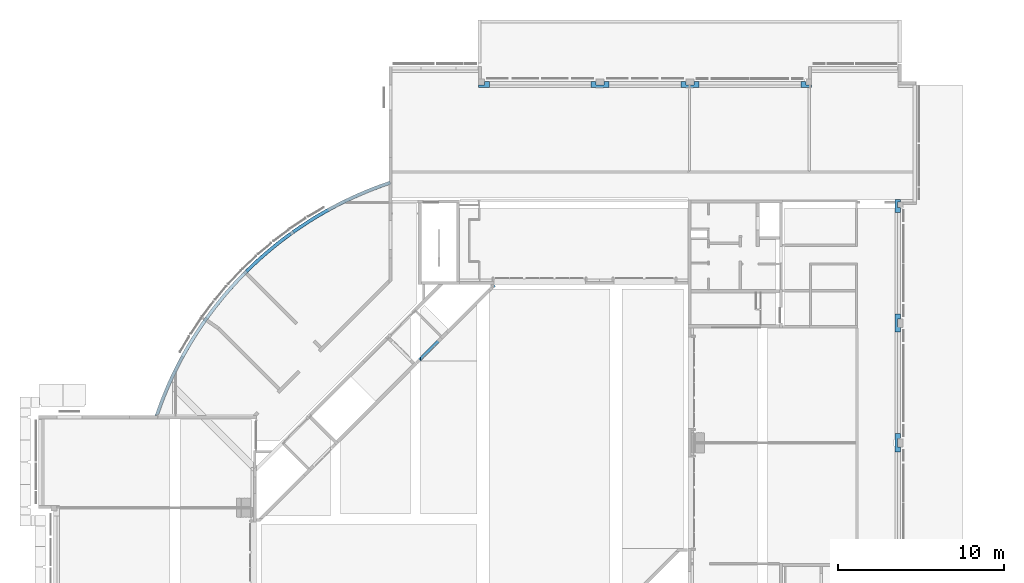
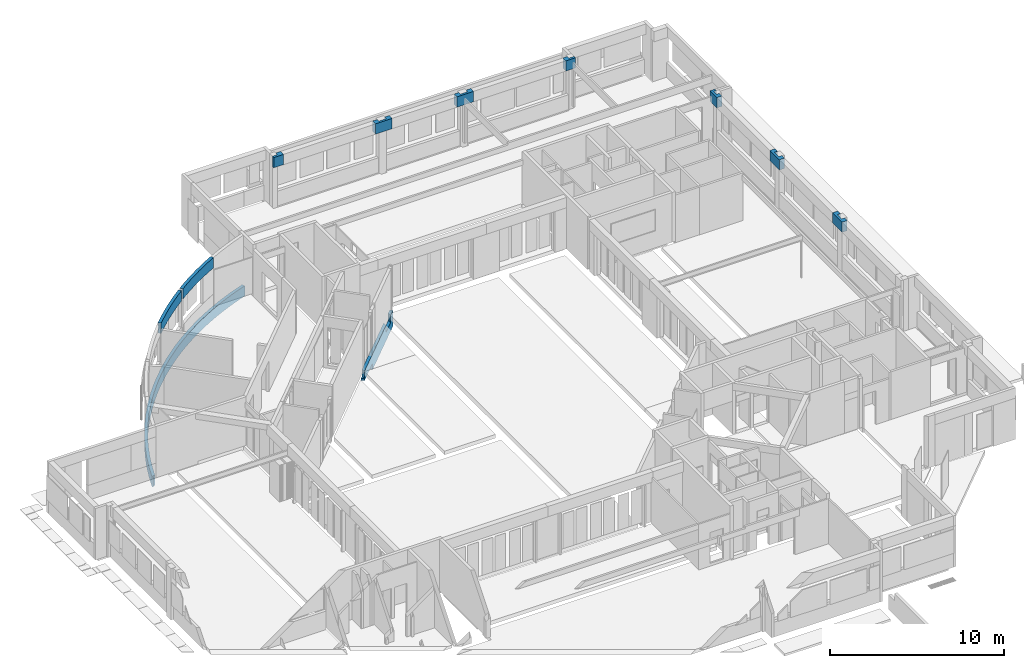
# One storey, part 25 of 30: 11 beams.
"""IFC4X3_ADD2 building model written with IfcOpenShell, lengths in millimetres."""

from ifc_helpers import new_model, si_unit, direction, frame, origin_with_axes, place, context, subcontext, project, spatial, polygons, source, transform, mapped, material, type_object, type_shapes, element, save


model = new_model("IFC4X3_ADD2")

# Units and contexts
model_context = context("Model", 3, precision=1e-05, world=origin_with_axes(), true_north=direction((0.0, 1.0)))
body_context = subcontext(model_context, "Body", "Model", "MODEL_VIEW")
ifc_project = project(units=[si_unit("LENGTHUNIT", "METRE", prefix="MILLI"), si_unit("AREAUNIT", "SQUARE_METRE"), si_unit("VOLUMEUNIT", "CUBIC_METRE"), si_unit("PLANEANGLEUNIT", "RADIAN"), si_unit("TIMEUNIT", "SECOND"), si_unit("MASSUNIT", "GRAM")], contexts=[model_context])

# Site, building, storey
site_placement = place(None, origin_with_axes())
site = spatial("IfcSite", under=ifc_project, at=site_placement, Name="Site", CompositionType="ELEMENT")
building_placement = place(site_placement, origin_with_axes())
building = spatial("IfcBuilding", under=site, at=building_placement, Name="IFC Building Story")
storey_placement = place(building_placement, origin_with_axes())
storey = spatial("IfcBuildingStorey", under=building, at=storey_placement, Name="000", Elevation=0.0)

# Beams
ifc_material = material(Name="BB_Beton_Bestaand")
beam_type_1 = type_object("IfcBeamType", Name="BB_XX_Betonbalk_ rechthoekig_ center-center_SFB_340 x 720 mm3", PredefinedType="NOTDEFINED")
shared_shape_1 = source(origin_with_axes(), body_context, "Body", "Tessellation", [
    polygons([(640.000000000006, 0.0, 720.0), (640.000000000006, 0.0, 0.0), (640.000000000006, 340.000000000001, 0.0), (640.000000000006, 340.000000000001, 720.0), (4.33146851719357e-12, 0.0, 0.0), (4.33146851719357e-12, 0.0, 720.0), (4.33146851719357e-12, 150.000000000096, 720.0), (4.33146851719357e-12, 150.000000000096, 0.0), (339.999999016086, 150.000000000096, 0.0), (339.999999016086, 340.000000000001, 0.0), (339.999999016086, 340.000000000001, 720.0), (339.999999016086, 150.000000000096, 720.0)], [[[1, 2, 3, 4]], [[5, 6, 7, 8]], [[2, 1, 6, 5]], [[9, 10, 3]], [[9, 3, 2]], [[2, 5, 8]], [[2, 8, 9]], [[4, 3, 10, 11]], [[12, 7, 6]], [[12, 6, 1]], [[1, 4, 11]], [[1, 11, 12]], [[12, 9, 8, 7]], [[9, 12, 11, 10]]]),
])
type_shapes(beam_type_1, [shared_shape_1])
beam_1_placement = place(storey_placement, frame((-25260.0, 50455.0, 2680.0), z_axis=(0.0, 0.0, 1.0), x_axis=(1.0, 0.0, 0.0)))
element("IfcBeam", 1, at=beam_1_placement, inside=storey, type_object=beam_type_1, material=ifc_material, Name="BB_XX_Betonbalk, rechthoekig, center-center_SFB:340 x 720 mm", ObjectType="BB_XX_Betonbalk, rechthoekig, center-center_SFB:340 x 720 mm", PredefinedType="BEAM", context=body_context, shape_type="MappedRepresentation", body=[
    mapped(shared_shape_1, transform((0.0, 0.0, 0.0))),
])
beam_type_2 = type_object("IfcBeamType", Name="BB_XX_Betonbalk_ rechthoekig_ center-center_SFB_340 x 720 mm11", PredefinedType="NOTDEFINED")
shared_shape_2 = source(origin_with_axes(), body_context, "Body", "Tessellation", [
    polygons([(640.000000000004, -8.66293703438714e-12, 720.000000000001), (640.000000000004, -8.66293703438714e-12, 1.08286712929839e-12), (640.000000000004, 149.999999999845, 1.08286712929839e-12), (640.000000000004, 149.999999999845, 720.000000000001), (0.0, -8.66293703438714e-12, 720.0), (0.0, 339.999999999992, 720.0), (0.0, 339.999999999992, 0.0), (0.0, -8.66293703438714e-12, 0.0), (300.000000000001, 339.999999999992, 0.0), (300.000000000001, 149.999999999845, 0.0), (300.0, 339.999999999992, 720.000000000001), (300.0, 149.999999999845, 720.000000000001)], [[[1, 2, 3, 4]], [[5, 6, 7, 8]], [[2, 1, 5, 8]], [[10, 3, 2]], [[10, 2, 8]], [[8, 7, 9]], [[8, 9, 10]], [[7, 6, 11, 9]], [[12, 11, 6]], [[12, 6, 5]], [[5, 1, 4]], [[5, 4, 12]], [[10, 12, 4, 3]], [[12, 10, 9, 11]]]),
])
type_shapes(beam_type_2, [shared_shape_2])
beam_2_placement = place(storey_placement, frame((-5910.0, 50455.0, 2680.0), z_axis=(0.0, 0.0, 1.0), x_axis=(1.0, 0.0, 0.0)))
element("IfcBeam", 2, at=beam_2_placement, inside=storey, type_object=beam_type_2, material=ifc_material, Name="BB_XX_Betonbalk, rechthoekig, center-center_SFB:340 x 720 mm", ObjectType="BB_XX_Betonbalk, rechthoekig, center-center_SFB:340 x 720 mm", PredefinedType="BEAM", context=body_context, shape_type="MappedRepresentation", body=[
    mapped(shared_shape_2, transform((0.0, 0.0, 0.0))),
])
beam_type_3 = type_object("IfcBeamType", Name="BB_XX_Betonbalk_ rechthoekig_ center-center_SFB_340 x 720 mm15", PredefinedType="NOTDEFINED")
shared_shape_3 = source(origin_with_axes(), body_context, "Body", "Tessellation", [
    polygons([(0.0, 0.0, 720.0), (0.0, 0.0, 0.0), (340.000000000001, 0.0, 0.0), (340.000000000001, 0.0, 720.0), (1.28590471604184e-12, 790.000000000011, 720.0), (340.000000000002, 790.000000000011, 720.0), (340.000000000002, 790.000000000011, 0.0), (1.28590471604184e-12, 790.000000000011, 0.0), (1.08286712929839e-12, 664.999999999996, 0.0), (0.0, 564.999999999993, 0.0), (340.000000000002, 640.00000000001, 0.0), (150.000000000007, 640.00000000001, 0.0), (150.000000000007, 300.000000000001, 0.0), (340.000000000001, 300.000000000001, 0.0), (340.000000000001, 300.000000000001, 720.0), (150.000000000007, 300.000000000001, 720.0), (150.000000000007, 640.00000000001, 720.0), (340.000000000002, 640.00000000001, 720.0)], [[[1, 2, 3, 4]], [[5, 6, 7, 8]], [[10, 2, 1]], [[10, 1, 5]], [[5, 9, 10]], [[5, 8, 9]], [[9, 8, 7]], [[9, 7, 11]], [[12, 10, 9]], [[9, 11, 12]], [[13, 14, 3]], [[13, 3, 2]], [[2, 10, 13]], [[10, 12, 13]], [[4, 3, 14, 15]], [[17, 18, 6]], [[17, 6, 5]], [[5, 1, 16]], [[5, 16, 17]], [[1, 4, 15]], [[1, 15, 16]], [[17, 12, 11, 18]], [[12, 17, 16, 13]], [[13, 16, 15, 14]], [[7, 6, 18, 11]]]),
])
type_shapes(beam_type_3, [shared_shape_3])
beam_3_placement = place(storey_placement, frame((-245.0, 42935.0, 2680.0), z_axis=(0.0, 0.0, 1.0), x_axis=(1.0, 0.0, 0.0)))
element("IfcBeam", 3, at=beam_3_placement, inside=storey, type_object=beam_type_3, material=ifc_material, Name="BB_XX_Betonbalk, rechthoekig, center-center_SFB:340 x 720 mm", ObjectType="BB_XX_Betonbalk, rechthoekig, center-center_SFB:340 x 720 mm", PredefinedType="BEAM", context=body_context, shape_type="MappedRepresentation", body=[
    mapped(shared_shape_3, transform((0.0, 0.0, 0.0))),
])
beam_type_4 = type_object("IfcBeamType", Name="BB_XX_Betonbalk_ rechthoekig_ center-center_SFB_200 x 720 mm1", PredefinedType="NOTDEFINED")
shared_shape_4 = source(origin_with_axes(), body_context, "Body", "Tessellation", [
    polygons([(142.597985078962, 1.59527223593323, 720.000000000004), (1.59527223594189, 143.434036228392, 720.000000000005), (1.59527223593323, 143.434036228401, 5.41433564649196e-12), (142.597985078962, 1.59527223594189, 4.33146851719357e-12), (2777.39848998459, 2240.48854089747, 0.0), (2660.17752042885, 2402.53558436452, 1.62430069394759e-12), (2660.17752042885, 2402.53558436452, 720.000000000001), (2777.3984899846, 2240.48854089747, 720.0), (2259.24342575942, 2105.63969209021, 2.16573425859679e-12), (2259.24342575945, 2105.63969209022, 720.000000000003), (1865.03358315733, 1799.8719385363, 2.70716782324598e-12), (1865.03358315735, 1799.87193853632, 720.000000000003), (1477.74427050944, 1485.38456609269, 3.24860138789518e-12), (1477.74427050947, 1485.38456609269, 720.000000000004), (1097.56831995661, 1162.33415866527, 3.79003495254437e-12), (1097.56831995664, 1162.33415866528, 720.000000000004), (724.695021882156, 830.881563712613, 4.33146851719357e-12), (724.695021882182, 830.88156371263, 720.000000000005), (359.310030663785, 491.19181215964, 4.87290208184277e-12), (359.310030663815, 491.191812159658, 720.000000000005), (2380.05086013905, 1946.2484633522, 1.08286712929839e-12), (1989.36733209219, 1643.21588574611, 1.62430069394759e-12), (1605.54242797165, 1331.54168861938, 2.16573425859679e-12), (1228.7672549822, 1011.38105519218, 2.70716782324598e-12), (859.229410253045, 682.893394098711, 3.24860138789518e-12), (497.112887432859, 346.242260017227, 3.79003495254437e-12), (2380.05086013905, 1946.2484633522, 720.000000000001), (1989.36733209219, 1643.21588574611, 720.000000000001), (1605.54242797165, 1331.54168861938, 720.000000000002), (1228.7672549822, 1011.38105519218, 720.000000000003), (859.22941025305, 682.893394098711, 720.000000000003), (497.112887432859, 346.242260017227, 720.000000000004)], [[[1, 2, 3, 4]], [[5, 6, 7, 8]], [[7, 6, 9, 10]], [[10, 9, 11, 12]], [[12, 11, 13, 14]], [[13, 15, 16, 14]], [[16, 15, 17, 18]], [[18, 17, 19, 20]], [[20, 19, 3, 2]], [[9, 6, 5]], [[9, 5, 21]], [[21, 22, 11]], [[21, 11, 9]], [[22, 23, 13]], [[22, 13, 11]], [[23, 24, 15]], [[23, 15, 13]], [[24, 25, 17]], [[24, 17, 15]], [[25, 26, 19]], [[25, 19, 17]], [[26, 4, 3]], [[26, 3, 19]], [[21, 5, 8, 27]], [[22, 21, 27, 28]], [[23, 22, 28, 29]], [[29, 30, 24, 23]], [[25, 24, 30, 31]], [[26, 25, 31, 32]], [[4, 26, 32, 1]], [[27, 8, 7]], [[27, 7, 10]], [[10, 12, 28]], [[10, 28, 27]], [[12, 14, 29]], [[12, 29, 28]], [[14, 16, 30]], [[14, 30, 29]], [[16, 18, 31]], [[16, 31, 30]], [[18, 20, 32]], [[18, 32, 31]], [[20, 2, 1]], [[20, 1, 32]]]),
])
type_shapes(beam_type_4, [shared_shape_4])
beam_4_placement = place(storey_placement, frame((-39281.262081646, 39331.1008729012, 2680.0), z_axis=(0.0, 0.0, 1.0), x_axis=(1.0, 0.0, 0.0)))
element("IfcBeam", 4, at=beam_4_placement, inside=storey, type_object=beam_type_4, material=ifc_material, Name="BB_XX_Betonbalk, rechthoekig, center-center_SFB:200 x 720 mm", ObjectType="BB_XX_Betonbalk, rechthoekig, center-center_SFB:200 x 720 mm", PredefinedType="BEAM", context=body_context, shape_type="MappedRepresentation", body=[
    mapped(shared_shape_4, transform((0.0, 0.0, 0.0))),
])
beam_type_5 = type_object("IfcBeamType", Name="BB_XX_Betonbalk_ rechthoekig_ center-center_SFB_200 x 720 mm3", PredefinedType="NOTDEFINED")
shared_shape_5 = source(origin_with_axes(), body_context, "Body", "Tessellation", [
    polygons([(14173.7584310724, 13938.0728633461, 720.000000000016), (14173.7584310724, 13938.0728633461, 1.59722901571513e-11), (14110.3369802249, 14127.7507997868, 1.48894230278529e-11), (14110.3369802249, 14127.7507997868, 720.000000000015), (1.59527223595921, 30.1020308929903, 1.48894230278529e-11), (91.3881264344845, 0.0, 1.54308565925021e-11), (91.3881264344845, 0.0, 20.0000000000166), (91.3881264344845, 0.0, 720.000000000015), (1.59527223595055, 30.1020308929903, 720.000000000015), (797.220168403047, 1566.40785327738, 720.000000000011), (910.899098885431, 1829.99881005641, 1.08286712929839e-11), (1006.30505520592, 2044.24929013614, 720.00000000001), (1226.57918607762, 2517.03702249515, 720.000000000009), (1418.44698908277, 2906.67320390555, 8.39222025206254e-12), (1457.92051000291, 2984.50908421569, 720.000000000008), (1194.43718385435, 2449.82836622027, 9.47508738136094e-12), (1652.88737702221, 3358.25403633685, 7.44471151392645e-12), (1700.20084376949, 3446.4064544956, 720.000000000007), (238.231573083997, 105.232225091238, 720.000000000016), (238.23157308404, 105.232225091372, 1.57015733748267e-11), (392.845084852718, 541.596269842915, 1.4483347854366e-11), (599.440376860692, 1083.7774782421, 720.000000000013), (413.075267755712, 596.625584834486, 720.000000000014), (556.54343647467, 974.640651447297, 1.32651223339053e-11), (729.253528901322, 1404.1713730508, 1.19115384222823e-11), (1953.28594299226, 3902.47320138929, 720.000000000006), (1897.63473028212, 3804.33275850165, 6.49720277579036e-12), (3690.43465536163, 6502.52294920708, 720.000000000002), (3375.66973466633, 6086.62390166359, 720.000000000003), (3574.96663967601, 6352.30792031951, 2.57180943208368e-12), (4348.89072112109, 7311.5228213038, 720.000000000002), (4014.90157851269, 6910.89801441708, 720.000000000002), (4210.06964258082, 7147.32785450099, 1.89501747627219e-12), (3887.95391130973, 6753.46403949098, 2.16573425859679e-12), (4692.21702403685, 7704.17538818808, 720.000000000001), (4541.14398988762, 7533.69169214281, 1.62430069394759e-12), (2491.30360401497, 4796.10739058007, 720.000000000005), (2217.03557649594, 4352.45662361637, 720.000000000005), (2417.52875991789, 4679.04608143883, 4.87290208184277e-12), (2977.03269806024, 5528.96857520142, 3.51931817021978e-12), (3070.7812236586, 5663.43131671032, 720.000000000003), (2775.93805716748, 5233.17968051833, 720.000000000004), (2692.40130517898, 5107.21947204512, 4.33146851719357e-12), (3271.27285834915, 5944.07101507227, 2.97788460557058e-12), (2152.55999720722, 4244.67416647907, 5.68505242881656e-12), (5044.69025449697, 8088.63815069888, 720.000000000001), (4881.00238623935, 7912.35183357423, 1.35358391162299e-12), (945.784067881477, 1909.04897945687, 1.06933129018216e-11), (980.975294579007, 1987.95865347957, 1.05579545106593e-11), (5229.46563328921, 8283.10862171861, 1.35358391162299e-12), (5406.11511153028, 8464.698082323, 720.000000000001), (6937.25353509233, 9880.81433195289, 720.000000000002), (7094.27059477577, 10011.6516653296, 1.89501747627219e-12), (7340.33735024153, 10211.8316527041, 720.000000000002), (7751.10080260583, 10533.2697043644, 720.000000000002), (7893.66367134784, 10641.241620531, 2.70716782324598e-12), (8169.31629324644, 10844.9503815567, 720.000000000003), (7490.35262558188, 10331.0359754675, 2.30109264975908e-12), (8303.99107826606, 10942.1050357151, 3.24860138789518e-12), (8594.75209412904, 11146.7009853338, 720.000000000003), (5776.29133417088, 8832.14681244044, 720.000000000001), (5586.34999580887, 8645.76656652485, 1.35358391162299e-12), (6542.07270089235, 9540.40115523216, 720.000000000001), (6155.01381241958, 9190.78074178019, 720.000000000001), (6324.62502547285, 9346.02541717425, 1.48894230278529e-12), (5951.46729855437, 9000.1344480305, 1.35358391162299e-12), (6705.6264211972, 9683.2570943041, 1.62430069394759e-12), (9027.17247652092, 11438.35431887, 720.000000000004), (8721.11849309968, 11233.4675818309, 3.79003495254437e-12), (12229.1033851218, 13184.356351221, 720.000000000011), (11754.6994416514, 12967.5845789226, 720.000000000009), (11812.5136154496, 12994.7271650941, 9.74580416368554e-12), (13192.5581513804, 13584.107061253, 720.000000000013), (12708.4781602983, 13389.9018089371, 720.000000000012), (12743.8860146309, 13404.5571417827, 1.21822552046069e-11), (12275.8469302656, 13204.989183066, 1.09640296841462e-11), (13681.0751319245, 13766.8644995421, 720.000000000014), (13216.3840854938, 13593.3258091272, 1.35358391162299e-11), (9912.00485323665, 11990.7284512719, 720.000000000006), (9466.3378416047, 11719.748780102, 720.000000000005), (9574.89012267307, 11787.0806373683, 5.14361886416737e-12), (10363.9265727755, 12251.143185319, 720.000000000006), (10011.0841697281, 12049.0392359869, 5.95576921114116e-12), (10900.9388908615, 12542.5700129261, 7.85078668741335e-12), (11285.5291913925, 12739.7066032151, 720.000000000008), (10821.8525959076, 12500.8486890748, 720.000000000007), (10453.1781266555, 12300.9132978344, 6.76791955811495e-12), (11354.1303718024, 12773.8819582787, 8.66293703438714e-12), (9144.82597724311, 11515.1756289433, 4.33146851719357e-12), (13693.0919657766, 13771.1956314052, 1.48894230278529e-11), (2263.79289239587, 4810.35543037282, 3.65467656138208e-12), (2848.52045961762, 5694.59114570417, 2.30109264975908e-12), (3474.50390082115, 6550.11663303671, 1.21822552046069e-12), (4140.33596687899, 7375.00861866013, 0.0), (4844.51982651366, 8167.41269485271, 0.0), (5406.86971693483, 8729.32044002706, 0.0), (5969.21960735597, 9291.22818520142, 0.0), (6762.17731769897, 9994.7885576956, 0.0), (7587.59276163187, 10659.971594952, 1.21822552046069e-12), (8443.6103546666, 11285.2819247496, 2.30109264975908e-12), (9328.30571680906, 11869.3138111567, 3.65467656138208e-12), (10239.6899986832, 12410.7543147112, 5.27897725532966e-12), (11175.7143525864, 12908.386243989, 7.30935312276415e-12), (12134.2745384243, 13361.0908919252, 9.61044577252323e-12), (13113.2156541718, 13767.8505507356, 1.21822552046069e-11), (91.3881264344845, 105.232225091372, 1.50247814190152e-11), (362.279700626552, 1026.939967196, 1.20468968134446e-11), (769.809224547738, 2005.56084131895, 9.47508738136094e-12), (1223.26769266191, 2963.76465358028, 7.17399473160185e-12), (1721.63570255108, 3899.3973031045, 5.27897725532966e-12), (769.809224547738, 2005.56084131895, 720.000000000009), (1223.26769266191, 2963.76465358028, 720.000000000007), (362.279700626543, 1026.939967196, 720.000000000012), (1721.63570255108, 3899.3973031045, 720.000000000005), (3474.50390082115, 6550.11663303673, 720.000000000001), (4140.33596687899, 7375.00861866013, 720.0), (2263.79289239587, 4810.35543037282, 720.000000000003), (2848.52045961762, 5694.59114570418, 720.000000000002), (4844.51982651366, 8167.41269485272, 720.0), (5406.86971693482, 8729.32044002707, 720.0), (5969.21960735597, 9291.22818520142, 720.0), (7587.59276163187, 10659.971594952, 720.000000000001), (8443.61035466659, 11285.2819247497, 720.000000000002), (6762.17731769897, 9994.7885576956, 720.0), (9328.30571680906, 11869.3138111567, 720.000000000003), (12134.2745384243, 13361.0908919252, 720.000000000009), (13113.2156541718, 13767.8505507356, 720.000000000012), (10239.6899986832, 12410.7543147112, 720.000000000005), (11175.7143525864, 12908.386243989, 720.000000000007), (91.3881264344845, 105.232225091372, 720.000000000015)], [[[1, 2, 3, 4]], [[7, 8, 9]], [[7, 9, 5]], [[5, 6, 7]], [[10, 11, 12]], [[13, 14, 15]], [[13, 12, 16]], [[15, 17, 18]], [[19, 20, 21]], [[22, 23, 24]], [[21, 23, 19]], [[22, 25, 10]], [[26, 18, 27]], [[28, 29, 30]], [[31, 32, 33]], [[34, 32, 28]], [[35, 31, 36]], [[37, 38, 39]], [[40, 41, 42]], [[37, 43, 42]], [[29, 41, 44]], [[38, 26, 45]], [[46, 35, 47]], [[24, 23, 21]], [[22, 24, 25]], [[25, 11, 10]], [[12, 11, 48]], [[48, 49, 12]], [[16, 12, 49]], [[13, 16, 14]], [[15, 14, 17]], [[18, 17, 27]], [[27, 45, 26]], [[39, 38, 45]], [[37, 39, 43]], [[40, 42, 43]], [[44, 41, 40]], [[30, 29, 44]], [[30, 34, 28]], [[33, 32, 34]], [[36, 31, 33]], [[35, 36, 47]], [[47, 50, 46]], [[50, 51, 46]], [[52, 53, 54]], [[55, 56, 57]], [[55, 54, 58]], [[57, 59, 60]], [[61, 51, 62]], [[63, 64, 65]], [[66, 64, 61]], [[63, 67, 52]], [[68, 60, 69]], [[70, 71, 72]], [[73, 74, 75]], [[76, 74, 70]], [[77, 73, 78]], [[79, 80, 81]], [[82, 79, 83]], [[84, 85, 86]], [[82, 87, 86]], [[71, 85, 88]], [[89, 80, 68]], [[1, 77, 90]], [[66, 61, 62]], [[64, 66, 65]], [[65, 67, 63]], [[52, 67, 53]], [[53, 58, 54]], [[56, 55, 58]], [[57, 56, 59]], [[60, 59, 69]], [[68, 69, 89]], [[89, 81, 80]], [[83, 79, 81]], [[82, 83, 87]], [[84, 86, 87]], [[88, 85, 84]], [[72, 71, 88]], [[72, 76, 70]], [[75, 74, 76]], [[78, 73, 75]], [[77, 78, 90]], [[90, 2, 1]], [[50, 62, 51]], [[90, 78, 105]], [[90, 105, 3]], [[3, 2, 90]], [[75, 76, 104]], [[75, 104, 105]], [[105, 78, 75]], [[72, 88, 103]], [[72, 103, 104]], [[104, 76, 72]], [[84, 87, 102]], [[84, 102, 103]], [[103, 88, 84]], [[83, 81, 101]], [[83, 101, 102]], [[102, 87, 83]], [[89, 69, 100]], [[89, 100, 101]], [[101, 81, 89]], [[59, 56, 99]], [[59, 99, 100]], [[100, 69, 59]], [[53, 67, 98]], [[98, 99, 58]], [[98, 58, 53]], [[99, 56, 58]], [[65, 66, 97]], [[97, 98, 67]], [[97, 67, 65]], [[66, 62, 96]], [[66, 96, 97]], [[50, 47, 95]], [[95, 96, 62]], [[95, 62, 50]], [[36, 33, 94]], [[94, 95, 47]], [[94, 47, 36]], [[34, 30, 93]], [[93, 94, 33]], [[93, 33, 34]], [[44, 40, 92]], [[92, 93, 30]], [[92, 30, 44]], [[43, 39, 91]], [[91, 92, 40]], [[91, 40, 43]], [[106, 6, 5]], [[106, 5, 107]], [[107, 21, 20]], [[107, 20, 106]], [[107, 24, 21]], [[107, 25, 24]], [[107, 108, 11]], [[107, 11, 25]], [[108, 48, 11]], [[108, 49, 48]], [[108, 109, 16]], [[108, 16, 49]], [[109, 14, 16]], [[109, 110, 17]], [[109, 17, 14]], [[110, 27, 17]], [[110, 45, 27]], [[110, 91, 39]], [[110, 39, 45]], [[108, 111, 112, 109]], [[5, 9, 113, 107]], [[111, 108, 107, 113]], [[109, 112, 114, 110]], [[115, 116, 94, 93]], [[91, 117, 118, 92]], [[92, 118, 115, 93]], [[114, 117, 91, 110]], [[94, 116, 119, 95]], [[120, 121, 97]], [[120, 97, 96]], [[96, 95, 119]], [[96, 119, 120]], [[99, 122, 123, 100]], [[97, 121, 124, 98]], [[122, 99, 98, 124]], [[100, 123, 125, 101]], [[126, 127, 105, 104]], [[102, 128, 129, 103]], [[103, 129, 126, 104]], [[125, 128, 102, 101]], [[105, 127, 4, 3]], [[77, 1, 4]], [[4, 127, 73]], [[4, 73, 77]], [[127, 74, 73]], [[127, 126, 70]], [[127, 70, 74]], [[126, 71, 70]], [[126, 129, 85]], [[126, 85, 71]], [[129, 86, 85]], [[129, 128, 82]], [[129, 82, 86]], [[128, 79, 82]], [[128, 125, 80]], [[128, 80, 79]], [[125, 68, 80]], [[125, 123, 60]], [[125, 60, 68]], [[123, 57, 60]], [[123, 122, 55]], [[123, 55, 57]], [[122, 54, 55]], [[122, 124, 52]], [[122, 52, 54]], [[124, 63, 52]], [[124, 121, 64]], [[124, 64, 63]], [[121, 120, 61]], [[121, 61, 64]], [[120, 51, 61]], [[120, 119, 46]], [[120, 46, 51]], [[119, 35, 46]], [[119, 116, 31]], [[119, 31, 35]], [[116, 32, 31]], [[116, 115, 28]], [[116, 28, 32]], [[115, 29, 28]], [[115, 118, 41]], [[115, 41, 29]], [[23, 22, 113]], [[113, 130, 19]], [[113, 19, 23]], [[113, 9, 130]], [[9, 8, 130]], [[10, 12, 111]], [[111, 113, 22]], [[111, 22, 10]], [[13, 15, 112]], [[112, 111, 12]], [[112, 12, 13]], [[18, 26, 114]], [[114, 112, 15]], [[114, 15, 18]], [[38, 37, 117]], [[117, 114, 26]], [[117, 26, 38]], [[42, 41, 118]], [[118, 117, 37]], [[118, 37, 42]], [[7, 6, 106]], [[106, 130, 8]], [[106, 8, 7]], [[106, 20, 19, 130]]]),
])
type_shapes(beam_type_5, [shared_shape_5])
beam_5_placement = place(storey_placement, frame((-44717.1254626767, 30694.7677749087, -920.0), z_axis=(0.0, 0.0, 1.0), x_axis=(1.0, 0.0, 0.0)))
element("IfcBeam", 5, at=beam_5_placement, inside=storey, type_object=beam_type_5, material=ifc_material, Name="BB_XX_Betonbalk, rechthoekig, center-center_SFB:200 x 720 mm", ObjectType="BB_XX_Betonbalk, rechthoekig, center-center_SFB:200 x 720 mm", PredefinedType="BEAM", context=body_context, shape_type="MappedRepresentation", body=[
    mapped(shared_shape_5, transform((0.0, 0.0, 0.0))),
])
beam_type_6 = type_object("IfcBeamType", Name="BB_XX_Betonbalk_ rechthoekig_ center-center_SFB_200 x 720 mm9", PredefinedType="NOTDEFINED")
shared_shape_6 = source(origin_with_axes(), body_context, "Body", "Tessellation", [
    polygons([(1.59527223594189, 164.686932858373, 720.0), (1.59527223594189, 164.686932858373, 0.0), (117.358436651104, 1.59527223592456, 0.0), (117.358436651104, 1.59527223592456, 720.0), (3207.10114787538, 1837.29341678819, 0.0), (3119.22604096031, 2016.95411250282, 0.0), (3119.22604096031, 2016.95411250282, 720.0), (3207.10114787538, 1837.29341678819, 720.000000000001), (2656.03101821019, 1783.70189572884, 0.0), (2656.03101821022, 1783.70189572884, 720.0), (2198.370648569, 1539.76909393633, 0.0), (2198.37064856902, 1539.76909393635, 720.0), (1746.49116834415, 1285.28695098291, 0.0), (1746.49116834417, 1285.28695098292, 720.0), (1300.63570353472, 1020.39238661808, 0.0), (1300.63570353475, 1020.3923866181, 720.0), (861.044139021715, 745.227922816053, 0.0), (861.044139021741, 745.227922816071, 720.0), (427.952989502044, 459.941607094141, 0.0), (427.95298950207, 459.941607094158, 720.0), (2748.0495309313, 1606.1277047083, 0.0), (2294.48305811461, 1364.37694835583, 0.0), (1846.64576308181, 1112.17121757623, 0.0), (1404.77859700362, 849.646207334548, 0.0), (969.11929892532, 576.943164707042, 0.0), (539.902267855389, 294.208812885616, 0.0), (2748.0495309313, 1606.1277047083, 720.0), (2294.48305811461, 1364.37694835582, 720.0), (1846.64576308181, 1112.17121757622, 720.0), (1404.77859700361, 849.646207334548, 720.0), (969.11929892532, 576.943164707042, 720.0), (539.902267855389, 294.208812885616, 720.0)], [[[1, 2, 3, 4]], [[5, 6, 7, 8]], [[7, 6, 9, 10]], [[10, 9, 11, 12]], [[12, 11, 13, 14]], [[13, 15, 16, 14]], [[16, 15, 17, 18]], [[18, 17, 19, 20]], [[20, 19, 2, 1]], [[9, 6, 5]], [[9, 5, 21]], [[21, 22, 11]], [[21, 11, 9]], [[22, 23, 13]], [[22, 13, 11]], [[23, 24, 15]], [[23, 15, 13]], [[24, 25, 17]], [[24, 17, 15]], [[25, 26, 19]], [[25, 19, 17]], [[26, 3, 2]], [[26, 2, 19]], [[21, 5, 8, 27]], [[22, 21, 27, 28]], [[23, 22, 28, 29]], [[29, 30, 24, 23]], [[25, 24, 30, 31]], [[26, 25, 31, 32]], [[3, 26, 32, 4]], [[27, 8, 7]], [[27, 7, 10]], [[10, 12, 28]], [[10, 28, 27]], [[12, 14, 29]], [[12, 29, 28]], [[14, 16, 30]], [[14, 30, 29]], [[16, 18, 31]], [[16, 31, 30]], [[18, 20, 32]], [[18, 32, 31]], [[20, 1, 4]], [[20, 4, 32]]]),
])
type_shapes(beam_type_6, [shared_shape_6])
beam_6_placement = place(storey_placement, frame((-36459.7104993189, 41685.7282059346, 2680.0), z_axis=(0.0, 0.0, 1.0), x_axis=(1.0, 0.0, 0.0)))
element("IfcBeam", 6, at=beam_6_placement, inside=storey, type_object=beam_type_6, material=ifc_material, Name="BB_XX_Betonbalk, rechthoekig, center-center_SFB:200 x 720 mm", ObjectType="BB_XX_Betonbalk, rechthoekig, center-center_SFB:200 x 720 mm", PredefinedType="BEAM", context=body_context, shape_type="MappedRepresentation", body=[
    mapped(shared_shape_6, transform((0.0, 0.0, 0.0))),
])
beam_type_7 = type_object("IfcBeamType", Name="BB_XX_Betonbalk_ rechthoekig_ center-center_SFB_340 x 720 mm79", PredefinedType="NOTDEFINED")
shared_shape_7 = source(origin_with_axes(), body_context, "Body", "Tessellation", [
    polygons([(1090.0, 0.0, 0.0), (1090.0, 0.0, -720.0), (1090.0, 340.000000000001, -720.0), (1090.0, 340.000000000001, 0.0), (0.0, 0.0, 0.0), (0.0, 340.000000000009, 0.0), (0.0, 340.000000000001, -720.0), (0.0, 0.0, -720.0), (300.000000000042, 340.000000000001, -720.0), (300.000000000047, 149.999999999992, -720.0), (790.000000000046, 149.999999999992, -720.0), (790.000000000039, 340.000000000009, -720.0), (790.000000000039, 340.000000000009, 0.0), (790.000000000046, 150.0, 0.0), (300.000000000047, 149.999999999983, 0.0), (300.000000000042, 340.000000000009, 0.0)], [[[1, 2, 3, 4]], [[5, 6, 7, 8]], [[2, 1, 5, 8]], [[11, 12, 3]], [[11, 3, 2]], [[2, 8, 10]], [[2, 10, 11]], [[8, 7, 9]], [[8, 9, 10]], [[4, 3, 12, 13]], [[15, 16, 6]], [[15, 6, 5]], [[5, 1, 14]], [[5, 14, 15]], [[1, 4, 13]], [[1, 13, 14]], [[14, 11, 10, 15]], [[15, 10, 9, 16]], [[11, 14, 13, 12]], [[7, 6, 16, 9]]]),
])
type_shapes(beam_type_7, [shared_shape_7])
beam_7_placement = place(storey_placement, frame((-13110.0, 50455.0, 3400.0), z_axis=(0.0, 0.0, 1.0), x_axis=(1.0, 0.0, 0.0)))
element("IfcBeam", 7, at=beam_7_placement, inside=storey, type_object=beam_type_7, material=ifc_material, Name="BB_XX_Betonbalk, rechthoekig, center-center_SFB:340 x 720 mm", ObjectType="BB_XX_Betonbalk, rechthoekig, center-center_SFB:340 x 720 mm", PredefinedType="BEAM", context=body_context, shape_type="MappedRepresentation", body=[
    mapped(shared_shape_7, transform((0.0, 0.0, 0.0))),
])
beam_type_8 = type_object("IfcBeamType", Name="BB_XX_Betonbalk_ rechthoekig_ center-center_SFB_340 x 720 mm81", PredefinedType="NOTDEFINED")
shared_shape_8 = source(origin_with_axes(), body_context, "Body", "Tessellation", [
    polygons([(1090.0, 0.0, 0.0), (1090.0, 0.0, -720.0), (1090.0, 340.000000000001, -720.0), (1090.0, 340.000000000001, 0.0), (2.16573425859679e-12, 0.0, 0.0), (2.16573425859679e-12, 340.000000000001, 0.0), (2.16573425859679e-12, 340.000000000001, -720.0), (2.16573425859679e-12, 0.0, -720.0), (300.000000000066, 340.000000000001, -720.0), (300.000000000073, 149.999999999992, -720.0), (790.000000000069, 150.000000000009, -720.0), (790.000000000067, 340.000000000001, -720.0), (790.000000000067, 340.000000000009, 0.0), (790.000000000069, 150.000000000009, 0.0), (300.000000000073, 149.999999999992, 0.0), (300.000000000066, 340.000000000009, 0.0)], [[[1, 2, 3, 4]], [[5, 6, 7, 8]], [[2, 1, 5, 8]], [[11, 12, 3]], [[11, 3, 2]], [[2, 8, 10]], [[2, 10, 11]], [[8, 7, 9]], [[8, 9, 10]], [[4, 3, 12, 13]], [[15, 16, 6]], [[15, 6, 5]], [[5, 1, 14]], [[5, 14, 15]], [[1, 4, 13]], [[1, 13, 14]], [[14, 11, 10, 15]], [[15, 10, 9, 16]], [[11, 14, 13, 12]], [[7, 6, 16, 9]]]),
])
type_shapes(beam_type_8, [shared_shape_8])
beam_8_placement = place(storey_placement, frame((-18510.0, 50455.0, 3400.0), z_axis=(0.0, 0.0, 1.0), x_axis=(1.0, 0.0, 0.0)))
element("IfcBeam", 8, at=beam_8_placement, inside=storey, type_object=beam_type_8, material=ifc_material, Name="BB_XX_Betonbalk, rechthoekig, center-center_SFB:340 x 720 mm", ObjectType="BB_XX_Betonbalk, rechthoekig, center-center_SFB:340 x 720 mm", PredefinedType="BEAM", context=body_context, shape_type="MappedRepresentation", body=[
    mapped(shared_shape_8, transform((0.0, 0.0, 0.0))),
])
beam_type_9 = type_object("IfcBeamType", Name="BB_XX_Betonbalk_ rechthoekig_ center-center_SFB_340 x 720 mm83", PredefinedType="NOTDEFINED")
shared_shape_9 = source(origin_with_axes(), body_context, "Body", "Tessellation", [
    polygons([(0.0, 4.33146851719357e-12, 720.0), (0.0, 4.33146851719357e-12, 0.0), (340.000000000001, 4.33146851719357e-12, 0.0), (340.000000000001, 4.33146851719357e-12, 720.0), (1.75965908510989e-12, 1090.0, 720.0), (340.000000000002, 1090.0, 720.0), (340.000000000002, 1090.0, 0.0), (1.75965908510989e-12, 1090.0, 0.0), (340.000000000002, 790.000000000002, 0.0), (149.999999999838, 790.000000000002, 0.0), (149.999999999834, 300.000000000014, 0.0), (340.000000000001, 300.000000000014, 0.0), (340.000000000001, 300.000000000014, 720.0), (149.999999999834, 300.000000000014, 720.0), (149.999999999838, 790.000000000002, 720.0), (340.000000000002, 790.000000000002, 720.0)], [[[1, 2, 3, 4]], [[5, 6, 7, 8]], [[2, 1, 5, 8]], [[11, 12, 3]], [[11, 3, 2]], [[2, 8, 10]], [[2, 10, 11]], [[8, 7, 9]], [[8, 9, 10]], [[4, 3, 12, 13]], [[15, 16, 6]], [[15, 6, 5]], [[5, 1, 14]], [[5, 14, 15]], [[1, 4, 13]], [[1, 13, 14]], [[11, 14, 13, 12]], [[15, 10, 9, 16]], [[14, 11, 10, 15]], [[7, 6, 16, 9]]]),
])
type_shapes(beam_type_9, [shared_shape_9])
beam_9_placement = place(storey_placement, frame((-245.0, 28555.0, 2680.0), z_axis=(0.0, 0.0, 1.0), x_axis=(1.0, 0.0, 0.0)))
element("IfcBeam", 9, at=beam_9_placement, inside=storey, type_object=beam_type_9, material=ifc_material, Name="BB_XX_Betonbalk, rechthoekig, center-center_SFB:340 x 720 mm", ObjectType="BB_XX_Betonbalk, rechthoekig, center-center_SFB:340 x 720 mm", PredefinedType="BEAM", context=body_context, shape_type="MappedRepresentation", body=[
    mapped(shared_shape_9, transform((0.0, 0.0, 0.0))),
])
beam_type_10 = type_object("IfcBeamType", Name="BB_XX_Betonbalk_ rechthoekig_ center-center_SFB_340 x 720 mm85", PredefinedType="NOTDEFINED")
shared_shape_10 = source(origin_with_axes(), body_context, "Body", "Tessellation", [
    polygons([(0.0, 0.0, 720.0), (0.0, 0.0, 0.0), (340.000000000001, 0.0, 0.0), (340.000000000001, 0.0, 720.0), (1.75965908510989e-12, 1089.99999999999, 720.0), (340.000000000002, 1089.99999999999, 720.0), (340.000000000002, 1089.99999999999, 0.0), (1.75965908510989e-12, 1089.99999999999, 0.0), (340.000000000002, 790.000000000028, 0.0), (149.999999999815, 790.000000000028, 0.0), (149.999999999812, 300.000000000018, 0.0), (340.000000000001, 300.000000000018, 0.0), (340.000000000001, 300.000000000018, 720.0), (149.999999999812, 300.000000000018, 720.0), (149.999999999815, 790.000000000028, 720.0), (340.000000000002, 790.000000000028, 720.0)], [[[1, 2, 3, 4]], [[5, 6, 7, 8]], [[2, 1, 5, 8]], [[11, 12, 3]], [[11, 3, 2]], [[2, 8, 10]], [[2, 10, 11]], [[8, 7, 9]], [[8, 9, 10]], [[4, 3, 12, 13]], [[15, 16, 6]], [[15, 6, 5]], [[5, 1, 14]], [[5, 14, 15]], [[1, 4, 13]], [[1, 13, 14]], [[15, 10, 9, 16]], [[11, 14, 13, 12]], [[10, 15, 14, 11]], [[7, 6, 16, 9]]]),
])
type_shapes(beam_type_10, [shared_shape_10])
beam_10_placement = place(storey_placement, frame((-245.0, 35755.0, 2680.0), z_axis=(0.0, 0.0, 1.0), x_axis=(1.0, 0.0, 0.0)))
element("IfcBeam", 10, at=beam_10_placement, inside=storey, type_object=beam_type_10, material=ifc_material, Name="BB_XX_Betonbalk, rechthoekig, center-center_SFB:340 x 720 mm", ObjectType="BB_XX_Betonbalk, rechthoekig, center-center_SFB:340 x 720 mm", PredefinedType="BEAM", context=body_context, shape_type="MappedRepresentation", body=[
    mapped(shared_shape_10, transform((0.0, 0.0, 0.0))),
])
beam_type_11 = type_object("IfcBeamType", Name="BB_XX_Betonbalk_ rechthoekig_ center-center_SFB_190 x 1100 mm1", PredefinedType="NOTDEFINED")
shared_shape_11 = source(origin_with_axes(), body_context, "Body", "Tessellation", [
    polygons([(134.35028842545, 1.29944055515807e-11, 450.00000000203), (134.350288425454, 1.29944055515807e-11, 840.0), (134.350288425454, 1.29944055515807e-11, 1100.0), (127.831890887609, 6.51839753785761, 1100.0), (127.831890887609, 6.51839753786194, 840.0), (127.831890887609, 6.51839753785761, 600.000000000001), (1.29944055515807e-11, 134.350288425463, 600.000000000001), (4.33146851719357e-12, 134.350288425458, 450.000000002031), (4483.31383707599, 4617.66412550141, 1100.0), (4617.66412550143, 4483.31383707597, 1100.0), (4617.66412550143, 4483.31383707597, 0.0), (4483.31383707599, 4617.66412550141, 0.0), (4237.83189088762, 4103.48160246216, 1100.0), (4237.83189088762, 4103.48160246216, 600.000000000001), (3517.83189088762, 3383.48160246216, 600.000000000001), (3517.83189088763, 3383.48160246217, 840.0), (3517.83189088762, 3383.48160246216, 1100.0), (1432.74843084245, 1298.39814241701, 450.000000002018), (1432.74843084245, 1298.398142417, 0.0), (1298.398142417, 1432.74843084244, 0.0), (1298.398142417, 1432.74843084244, 450.000000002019), (127.831890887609, 262.182179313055, 600.000000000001), (127.831890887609, 262.182179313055, 840.0), (127.831890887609, 262.182179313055, 1100.0), (1788.34687217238, 1922.69716059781, 1100.0), (3517.83189088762, 3652.18217931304, 1100.0), (3517.83189088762, 3652.18217931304, 600.000000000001), (4178.86185345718, 4313.21214188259, 600.000000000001), (4178.86185345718, 4313.21214188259, 1100.0), (4237.83189088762, 4313.21214188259, 600.000000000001), (4237.83189088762, 4313.21214188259, 1100.0)], [[[2, 3, 4]], [[2, 4, 5]], [[6, 7, 8]], [[6, 8, 1]], [[6, 1, 2]], [[2, 5, 6]], [[9, 10, 11, 12]], [[15, 16, 17]], [[18, 19, 11]], [[18, 11, 15]], [[15, 2, 18]], [[2, 1, 18]], [[15, 17, 3]], [[15, 3, 2]], [[11, 14, 15]], [[11, 10, 14]], [[10, 13, 14]], [[12, 11, 19, 20]], [[23, 24, 25]], [[23, 25, 21]], [[21, 22, 23]], [[21, 8, 22]], [[8, 7, 22]], [[28, 29, 9]], [[28, 9, 12]], [[12, 27, 28]], [[27, 12, 20]], [[27, 20, 21]], [[27, 21, 25]], [[25, 26, 27]], [[25, 24, 4]], [[25, 4, 3]], [[3, 17, 25]], [[17, 26, 25]], [[18, 21, 20, 19]], [[21, 18, 1, 8]], [[30, 31, 29, 28]], [[16, 15, 27]], [[27, 26, 17]], [[27, 17, 16]], [[30, 28, 27]], [[30, 27, 15]], [[30, 15, 14]], [[31, 30, 14, 13]], [[31, 13, 10]], [[31, 10, 9]], [[9, 29, 31]], [[6, 22, 7]], [[5, 4, 24]], [[5, 24, 23]], [[23, 22, 6]], [[23, 6, 5]]]),
])
type_shapes(beam_type_11, [shared_shape_11])
beam_11_placement = place(storey_placement, frame((-28877.8318908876, 34016.783792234, -1500.0), z_axis=(0.0, 0.0, 1.0), x_axis=(1.0, 0.0, 0.0)))
element("IfcBeam", 11, at=beam_11_placement, inside=storey, type_object=beam_type_11, material=ifc_material, Name="BB_XX_Betonbalk, rechthoekig, center-center_SFB:190 x 1100 mm", ObjectType="BB_XX_Betonbalk, rechthoekig, center-center_SFB:190 x 1100 mm", PredefinedType="BEAM", context=body_context, shape_type="MappedRepresentation", body=[
    mapped(shared_shape_11, transform((0.0, 0.0, 0.0))),
])

save(model, "model.ifc")
